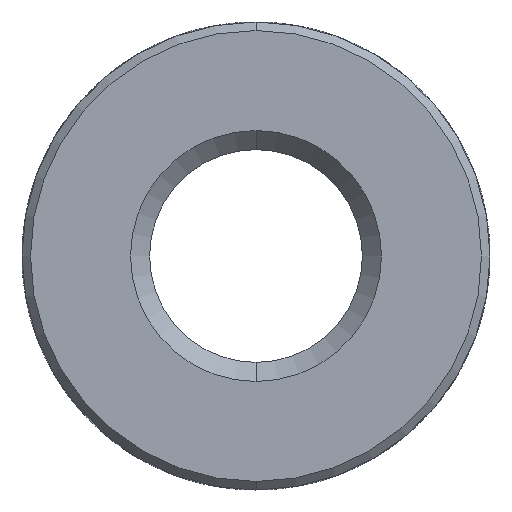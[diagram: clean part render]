
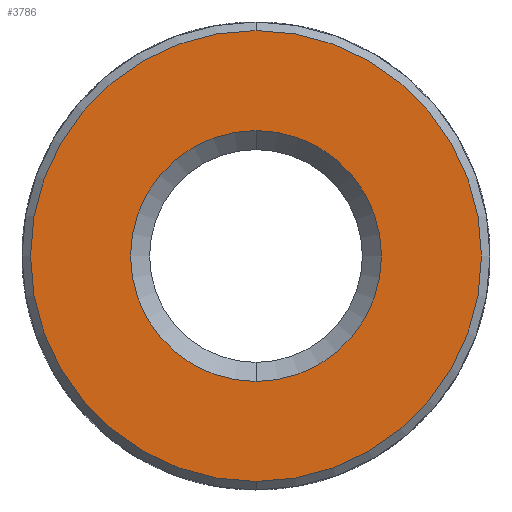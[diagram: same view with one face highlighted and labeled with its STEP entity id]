
A CAD part, front view. The second image highlights one B-rep face of the part: STEP entity #3786.
In plain terms, the highlighted planar face has unit normal (0, -1, 0).
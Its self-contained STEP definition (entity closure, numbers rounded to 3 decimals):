
#174 = CIRCLE ( 'NONE', #2350, 2.65 ) ;
#213 = DIRECTION ( 'NONE',  ( 0., 0., -1. ) ) ;
#400 = CIRCLE ( 'NONE', #2159, 1.475 ) ;
#479 = VERTEX_POINT ( 'NONE', #1659 ) ;
#587 = DIRECTION ( 'NONE',  ( 0., 1., 0. ) ) ;
#602 = CARTESIAN_POINT ( 'NONE',  ( 0., -6.3, 2.65 ) ) ;
#625 = ORIENTED_EDGE ( 'NONE', *, *, #3254, .T. ) ;
#634 = EDGE_CURVE ( 'NONE', #2212, #479, #3695, .T. ) ;
#778 = ORIENTED_EDGE ( 'NONE', *, *, #1836, .T. ) ;
#1177 = DIRECTION ( 'NONE',  ( 0., -1., 0. ) ) ;
#1659 = CARTESIAN_POINT ( 'NONE',  ( 0., -6.3, 1.475 ) ) ;
#1661 = DIRECTION ( 'NONE',  ( 0., -1., 0. ) ) ;
#1735 = DIRECTION ( 'NONE',  ( 0., 0., -1. ) ) ;
#1762 = DIRECTION ( 'NONE',  ( 0., 0., -1. ) ) ;
#1836 = EDGE_CURVE ( 'NONE', #2008, #2354, #2478, .T. ) ;
#2007 = AXIS2_PLACEMENT_3D ( 'NONE', #2375, #2753, #3040 ) ;
#2008 = VERTEX_POINT ( 'NONE', #2257 ) ;
#2114 = ORIENTED_EDGE ( 'NONE', *, *, #634, .T. ) ;
#2119 = EDGE_LOOP ( 'NONE', ( #2114, #625 ) ) ;
#2159 = AXIS2_PLACEMENT_3D ( 'NONE', #3943, #587, #3359 ) ;
#2172 = EDGE_CURVE ( 'NONE', #2354, #2008, #174, .T. ) ;
#2212 = VERTEX_POINT ( 'NONE', #3615 ) ;
#2257 = CARTESIAN_POINT ( 'NONE',  ( 0., -6.3, -2.65 ) ) ;
#2290 = AXIS2_PLACEMENT_3D ( 'NONE', #2669, #1661, #213 ) ;
#2350 = AXIS2_PLACEMENT_3D ( 'NONE', #2382, #1177, #1762 ) ;
#2354 = VERTEX_POINT ( 'NONE', #602 ) ;
#2375 = CARTESIAN_POINT ( 'NONE',  ( 0., -6.3, 2.75 ) ) ;
#2382 = CARTESIAN_POINT ( 'NONE',  ( 0., -6.3, 0. ) ) ;
#2478 = CIRCLE ( 'NONE', #2290, 2.65 ) ;
#2669 = CARTESIAN_POINT ( 'NONE',  ( 0., -6.3, 0. ) ) ;
#2680 = DIRECTION ( 'NONE',  ( 0., 1., 0. ) ) ;
#2684 = PLANE ( 'NONE',  #2007 ) ;
#2692 = ORIENTED_EDGE ( 'NONE', *, *, #2172, .T. ) ;
#2753 = DIRECTION ( 'NONE',  ( 0., -1., 0. ) ) ;
#2902 = AXIS2_PLACEMENT_3D ( 'NONE', #3863, #2680, #1735 ) ;
#3022 = EDGE_LOOP ( 'NONE', ( #2692, #778 ) ) ;
#3040 = DIRECTION ( 'NONE',  ( 0., 0., -1. ) ) ;
#3254 = EDGE_CURVE ( 'NONE', #479, #2212, #400, .T. ) ;
#3359 = DIRECTION ( 'NONE',  ( 0., 0., -1. ) ) ;
#3376 = FACE_OUTER_BOUND ( 'NONE', #3022, .T. ) ;
#3615 = CARTESIAN_POINT ( 'NONE',  ( 0., -6.3, -1.475 ) ) ;
#3695 = CIRCLE ( 'NONE', #2902, 1.475 ) ;
#3761 = FACE_BOUND ( 'NONE', #2119, .T. ) ;
#3786 = ADVANCED_FACE ( 'NONE', ( #3376, #3761 ), #2684, .T. ) ;
#3863 = CARTESIAN_POINT ( 'NONE',  ( 0., -6.3, 0. ) ) ;
#3943 = CARTESIAN_POINT ( 'NONE',  ( 0., -6.3, 0. ) ) ;
